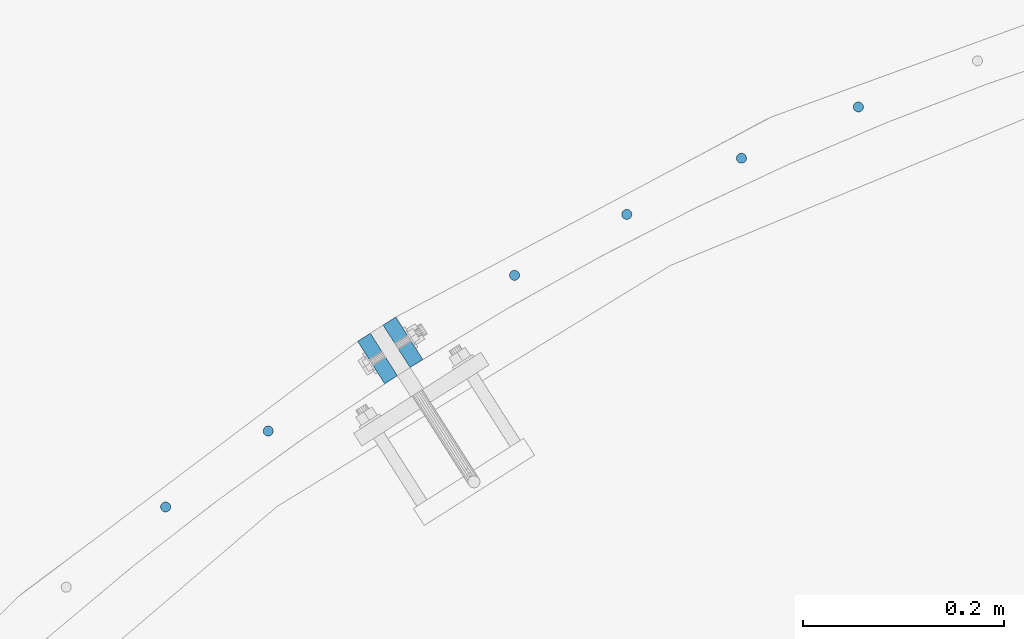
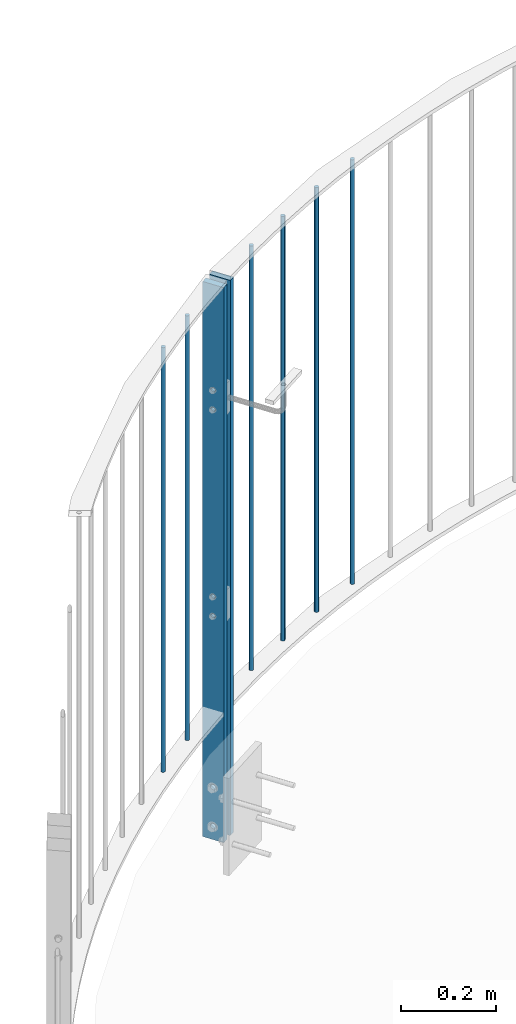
# One storey, part 68 of 296: 8 columns, 12 openings.
"""IFC2X3 building model written with IfcOpenShell, lengths in millimetres."""

from ifc_helpers import new_model, entity, si_unit, converted_unit, frame, frame_2d, origin, origin_with_axes, origin_2d, place, context, project, spatial, rectangle, circle, extrude, material, element, save


model = new_model("IFC2X3")

# Units and contexts
model_context = context("Model", 3, precision=1e-09, world=origin_with_axes())
ifc_project = project(units=[si_unit("LENGTHUNIT", "METRE", prefix="MILLI"), si_unit("AREAUNIT", "SQUARE_METRE"), si_unit("VOLUMEUNIT", "CUBIC_METRE"), converted_unit("PLANEANGLEUNIT", "DEGREE", entity("IfcPlaneAngleMeasure", 0.01745329), si_unit("PLANEANGLEUNIT", "RADIAN"), dimensions=[0, 0, 0, 0, 0, 0, 0])], contexts=[model_context])

# Site, building, storey
site_placement = place(None, origin_with_axes())
site = spatial("IfcSite", under=ifc_project, at=site_placement, Name="TZD-S?d | Treppenhausgel?nder", CompositionType="ELEMENT")
building_placement = place(site_placement, origin_with_axes())
building = spatial("IfcBuilding", under=site, at=building_placement, Name="Struktur 1", CompositionType="ELEMENT")
storey_placement = place(building_placement, origin_with_axes())
storey = spatial("IfcBuildingStorey", under=building, at=storey_placement, Name="Default Storey", CompositionType="ELEMENT", Elevation=0.0)

# Columns
ifc_material = material(Name="S235JR")
for number, where, z_axis, x_axis in (
    (1, (1095.113445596, 2266.022423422, 7350.0), (0.0, 0.0, 1.0), (0.422618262, 0.906307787, 0.0)),
    (2, (1197.189451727, 2341.511969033, 7350.0), (0.0, 0.0, 1.0), (0.422618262, 0.906307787, 0.0)),
    (3, (1442.120002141, 2496.374672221, 7350.0), (0.0, 0.0, 1.0), (0.766044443, 0.64278761, 0.0)),
    (4, (1553.675949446, 2556.983690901, 7350.0), (0.0, 0.0, 1.0), (0.766044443, 0.64278761, 0.0)),
    (5, (1667.70425369, 2612.802400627, 7350.0), (0.0, 0.0, 1.0), (0.766044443, 0.64278761, 0.0)),
    (6, (1783.999332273, 2663.730165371, 7350.0), (0.0, 0.0, 1.0), (0.766044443, 0.64278761, 0.0)),
):
    element("IfcColumn", number, at=place(None, frame(where, z_axis=z_axis, x_axis=x_axis)), inside=storey, material=ifc_material, Name="-", ObjectType="-", context=model_context, shape_type="SweptSolid", body=[
        extrude(circle(Radius=5.0, at=origin_2d()), origin(), (0.0, 0.0, 1.0), 1090.0),
    ])

# Column, openings
column_1_placement = place(None, frame((1331.12504273, 2429.799917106, 7015.001), z_axis=(0.0, 0.0, -1.0), x_axis=(-0.843391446, -0.537299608, 0.0)))
column_1 = element("IfcColumn", 7, at=column_1_placement, inside=storey, material=ifc_material, Name="-", ObjectType="-", context=model_context, shape_type="SweptSolid", body=[
    extrude(rectangle(XDim=15.0, YDim=50.0, at=origin_2d()), origin(), (0.0, 0.0, -1.0), 1424.999),
])
opening_1_placement = place(column_1_placement, frame((-8.0, 0.0, -1129.999999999), z_axis=(1.0, 0.0, 0.0), x_axis=(0.0, -1.0, 0.0)))
element("IfcOpeningElement", 8, at=opening_1_placement, cuts=column_1, ObjectType="Opening", context=model_context, shape_type="SweptSolid", body=[
    extrude(circle(Radius=5.001, at=frame_2d((0.0, 25.0), x_axis=(1.0, 0.0))), origin(), (0.0, 0.0, 1.0), 16.0),
])
opening_2_placement = place(column_1_placement, frame((-8.0, 0.0, -1129.999999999), z_axis=(1.0, 0.0, 0.0), x_axis=(0.0, -1.0, 0.0)))
element("IfcOpeningElement", 9, at=opening_2_placement, cuts=column_1, ObjectType="Opening", context=model_context, shape_type="SweptSolid", body=[
    extrude(circle(Radius=5.001, at=frame_2d((0.0, -25.0), x_axis=(1.0, 0.0))), origin(), (0.0, 0.0, 1.0), 16.0),
])
opening_3_placement = place(column_1_placement, frame((-8.0, 0.0, -599.999999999), z_axis=(1.0, 0.0, 0.0), x_axis=(0.0, -1.0, 0.0)))
element("IfcOpeningElement", 10, at=opening_3_placement, cuts=column_1, ObjectType="Opening", context=model_context, shape_type="SweptSolid", body=[
    extrude(circle(Radius=5.001, at=frame_2d((0.0, 25.0), x_axis=(1.0, 0.0))), origin(), (0.0, 0.0, 1.0), 16.0),
])
opening_4_placement = place(column_1_placement, frame((-8.0, 0.0, -599.999999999), z_axis=(1.0, 0.0, 0.0), x_axis=(0.0, -1.0, 0.0)))
element("IfcOpeningElement", 11, at=opening_4_placement, cuts=column_1, ObjectType="Opening", context=model_context, shape_type="SweptSolid", body=[
    extrude(circle(Radius=5.001, at=frame_2d((0.0, -25.0), x_axis=(1.0, 0.0))), origin(), (0.0, 0.0, 1.0), 16.0),
])
opening_5_placement = place(column_1_placement, frame((-8.0, 0.0, -85.0), z_axis=(1.0, 0.0, 0.0), x_axis=(0.0, -1.0, 0.0)))
element("IfcOpeningElement", 12, at=opening_5_placement, cuts=column_1, ObjectType="Opening", context=model_context, shape_type="SweptSolid", body=[
    extrude(circle(Radius=7.001, at=frame_2d((0.0, 50.0), x_axis=(1.0, 0.0))), origin(), (0.0, 0.0, 1.0), 16.0),
])
opening_6_placement = place(column_1_placement, frame((-8.0, 0.0, -85.0), z_axis=(1.0, 0.0, 0.0), x_axis=(0.0, -1.0, 0.0)))
element("IfcOpeningElement", 13, at=opening_6_placement, cuts=column_1, ObjectType="Opening", context=model_context, shape_type="SweptSolid", body=[
    extrude(circle(Radius=7.001, at=frame_2d((0.0, -50.0), x_axis=(1.0, 0.0))), origin(), (0.0, 0.0, 1.0), 16.0),
])

column_2_placement = place(None, frame((1305.823299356, 2413.680928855, 7015.001), z_axis=(0.0, 0.0, 1.0), x_axis=(0.843391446, 0.537299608, 0.0)))
column_2 = element("IfcColumn", 14, at=column_2_placement, inside=storey, material=ifc_material, Name="-", ObjectType="-", context=model_context, shape_type="SweptSolid", body=[
    extrude(rectangle(XDim=15.0, YDim=50.0, at=origin_2d()), origin(), (0.0, 0.0, 1.0), 1424.999),
])
opening_7_placement = place(column_2_placement, frame((8.0, 0.0, 599.999999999), z_axis=(-1.0, 0.0, 0.0), x_axis=(0.0, -1.0, 0.0)))
element("IfcOpeningElement", 15, at=opening_7_placement, cuts=column_2, ObjectType="Opening", context=model_context, shape_type="SweptSolid", body=[
    extrude(circle(Radius=5.001, at=frame_2d((0.0, 25.0), x_axis=(1.0, 0.0))), origin(), (0.0, 0.0, 1.0), 16.0),
])
opening_8_placement = place(column_2_placement, frame((8.0, 0.0, 599.999999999), z_axis=(-1.0, 0.0, 0.0), x_axis=(0.0, -1.0, 0.0)))
element("IfcOpeningElement", 16, at=opening_8_placement, cuts=column_2, ObjectType="Opening", context=model_context, shape_type="SweptSolid", body=[
    extrude(circle(Radius=5.001, at=frame_2d((0.0, -25.0), x_axis=(1.0, 0.0))), origin(), (0.0, 0.0, 1.0), 16.0),
])
opening_9_placement = place(column_2_placement, frame((8.0, 0.0, 1129.999999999), z_axis=(-1.0, 0.0, 0.0), x_axis=(0.0, -1.0, 0.0)))
element("IfcOpeningElement", 17, at=opening_9_placement, cuts=column_2, ObjectType="Opening", context=model_context, shape_type="SweptSolid", body=[
    extrude(circle(Radius=5.001, at=frame_2d((0.0, 25.0), x_axis=(1.0, 0.0))), origin(), (0.0, 0.0, 1.0), 16.0),
])
opening_10_placement = place(column_2_placement, frame((8.0, 0.0, 1129.999999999), z_axis=(-1.0, 0.0, 0.0), x_axis=(0.0, -1.0, 0.0)))
element("IfcOpeningElement", 18, at=opening_10_placement, cuts=column_2, ObjectType="Opening", context=model_context, shape_type="SweptSolid", body=[
    extrude(circle(Radius=5.001, at=frame_2d((0.0, -25.0), x_axis=(1.0, 0.0))), origin(), (0.0, 0.0, 1.0), 16.0),
])
opening_11_placement = place(column_2_placement, frame((8.0, 0.0, 85.0), z_axis=(-1.0, 0.0, 0.0), x_axis=(0.0, -1.0, 0.0)))
element("IfcOpeningElement", 19, at=opening_11_placement, cuts=column_2, ObjectType="Opening", context=model_context, shape_type="SweptSolid", body=[
    extrude(circle(Radius=7.001, at=frame_2d((0.0, 50.0), x_axis=(1.0, 0.0))), origin(), (0.0, 0.0, 1.0), 16.0),
])
opening_12_placement = place(column_2_placement, frame((8.0, 0.0, 85.0), z_axis=(-1.0, 0.0, 0.0), x_axis=(0.0, -1.0, 0.0)))
element("IfcOpeningElement", 20, at=opening_12_placement, cuts=column_2, ObjectType="Opening", context=model_context, shape_type="SweptSolid", body=[
    extrude(circle(Radius=7.001, at=frame_2d((0.0, -50.0), x_axis=(1.0, 0.0))), origin(), (0.0, 0.0, 1.0), 16.0),
])

save(model, "model.ifc")
